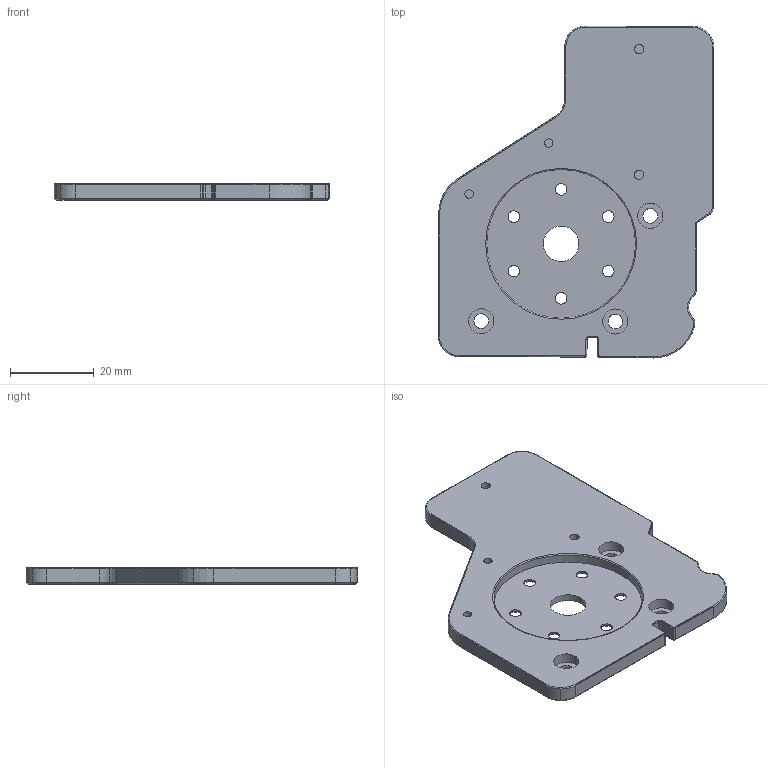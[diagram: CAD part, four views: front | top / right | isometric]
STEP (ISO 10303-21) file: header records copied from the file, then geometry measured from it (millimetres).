
FILE_DESCRIPTION(('STEP AP214'),'1');
FILE_NAME('New Motor Capstan Support P03 Large v47.stp','2020-10-06T14:59:44',(' '),(' '),'Spatial InterOp 3D',' ',' ');
FILE_SCHEMA(('AUTOMOTIVE_DESIGN { 1 0 10303 214 1 1 1 1 }'));
Length unit declared in the file: metre
Products named in the file (1): Corps
Bounding box: 65.73 x 79.22 x 4.01 mm (x, y, z)
Volume: 13432 mm3; surface area: 9587.7 mm2
Topology: 1 solids, 1 shells, 188 faces, 466 edges, 288 vertices
Faces by surface type: cylinder 100, cone 34, plane 34, torus 20
Entity records: 5703 total; most frequent: DIRECTION 1116, CARTESIAN_POINT 943, ORIENTED_EDGE 932, EDGE_CURVE 466, AXIS2_PLACEMENT_3D 461, VERTEX_POINT 288, CIRCLE 260, EDGE_LOOP 216
